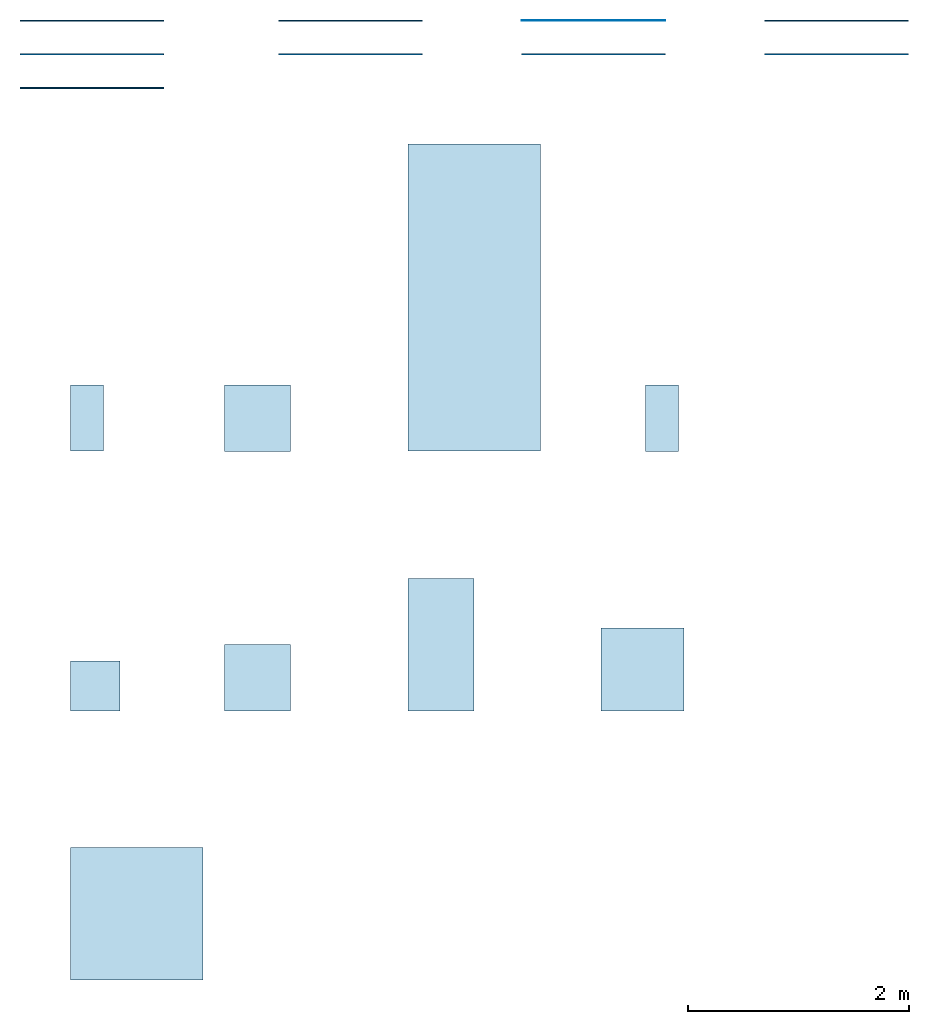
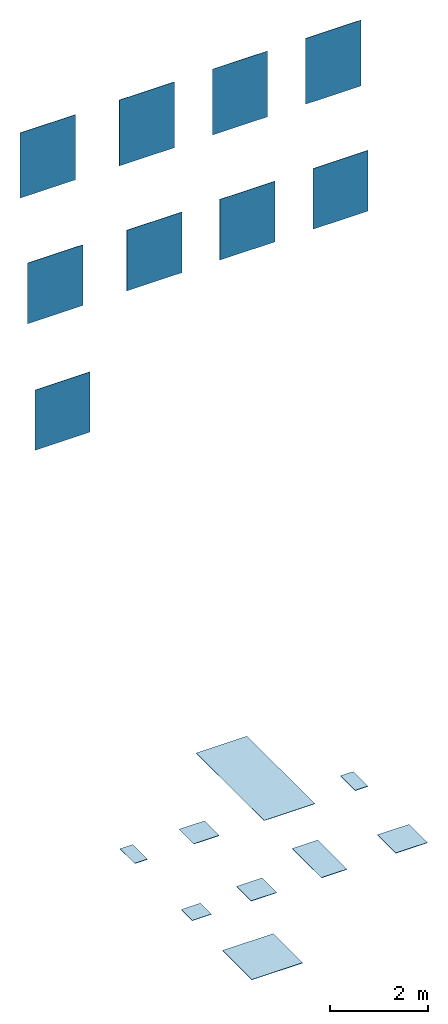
# One storey: 9 slabs, 9 walls.
"""IFC2X3 building model written with IfcOpenShell, lengths in millimetres."""

from ifc_helpers import new_model, entity, si_unit, converted_unit, derived_unit, direction, frame, frame_2d, origin, origin_2d_with_axis, place, context, subcontext, project, spatial, rectangle, extrude, material, layer, layer_set, layer_usage, type_object, element, save


model = new_model("IFC2X3")

# Units and contexts
model_context = context("Model", 3, precision=0.01, world=origin(), true_north=direction((6.12303176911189e-17, 1.0)))
body_context = subcontext(model_context, "Body", "Model", "MODEL_VIEW")
ifc_project = project(units=[si_unit("LENGTHUNIT", "METRE", prefix="MILLI"), si_unit("AREAUNIT", "SQUARE_METRE"), si_unit("VOLUMEUNIT", "CUBIC_METRE"), converted_unit("PLANEANGLEUNIT", "DEGREE", entity("IfcRatioMeasure", 0.0174532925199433), si_unit("PLANEANGLEUNIT", "RADIAN"), dimensions=[0, 0, 0, 0, 0, 0, 0]), si_unit("MASSUNIT", "GRAM", prefix="KILO"), derived_unit("MASSDENSITYUNIT", [(si_unit("MASSUNIT", "GRAM", prefix="KILO"), 1), (si_unit("LENGTHUNIT", "METRE"), -3)]), derived_unit("MOMENTOFINERTIAUNIT", [(si_unit("LENGTHUNIT", "METRE"), 4)]), si_unit("TIMEUNIT", "SECOND"), si_unit("FREQUENCYUNIT", "HERTZ"), si_unit("THERMODYNAMICTEMPERATUREUNIT", "DEGREE_CELSIUS"), derived_unit("THERMALTRANSMITTANCEUNIT", [(si_unit("MASSUNIT", "GRAM", prefix="KILO"), 1), (si_unit("THERMODYNAMICTEMPERATUREUNIT", "KELVIN"), -1), (si_unit("TIMEUNIT", "SECOND"), -3)]), derived_unit("VOLUMETRICFLOWRATEUNIT", [(si_unit("LENGTHUNIT", "METRE"), 3), (si_unit("TIMEUNIT", "SECOND"), -1)]), si_unit("ELECTRICCURRENTUNIT", "AMPERE"), si_unit("ELECTRICVOLTAGEUNIT", "VOLT"), si_unit("POWERUNIT", "WATT"), si_unit("FORCEUNIT", "NEWTON", prefix="KILO"), si_unit("ILLUMINANCEUNIT", "LUX"), si_unit("LUMINOUSFLUXUNIT", "LUMEN"), si_unit("LUMINOUSINTENSITYUNIT", "CANDELA"), derived_unit("USERDEFINED", [(si_unit("MASSUNIT", "GRAM", prefix="KILO"), -1), (si_unit("LENGTHUNIT", "METRE"), -2), (si_unit("TIMEUNIT", "SECOND"), 3), (si_unit("LUMINOUSFLUXUNIT", "LUMEN"), 1)]), derived_unit("LINEARVELOCITYUNIT", [(si_unit("LENGTHUNIT", "METRE"), 1), (si_unit("TIMEUNIT", "SECOND"), -1)]), si_unit("PRESSUREUNIT", "PASCAL"), derived_unit("USERDEFINED", [(si_unit("LENGTHUNIT", "METRE"), -2), (si_unit("MASSUNIT", "GRAM", prefix="KILO"), 1), (si_unit("TIMEUNIT", "SECOND"), -2)]), derived_unit("LINEARFORCEUNIT", [(si_unit("MASSUNIT", "GRAM", prefix="KILO"), 1), (si_unit("LENGTHUNIT", "METRE"), 1), (si_unit("TIMEUNIT", "SECOND"), -2), (si_unit("LENGTHUNIT", "METRE"), -1)]), derived_unit("PLANARFORCEUNIT", [(si_unit("MASSUNIT", "GRAM", prefix="KILO"), 1), (si_unit("LENGTHUNIT", "METRE"), 1), (si_unit("TIMEUNIT", "SECOND"), -2), (si_unit("LENGTHUNIT", "METRE"), -2)])], contexts=[model_context])

# Site, building, storey
site_placement = place(None, origin())
site = spatial("IfcSite", under=ifc_project, at=site_placement, Name="Default", CompositionType="ELEMENT")
building_placement = place(site_placement, origin())
building = spatial("IfcBuilding", under=site, at=building_placement, CompositionType="ELEMENT")
storey_placement = place(building_placement, origin())
storey = spatial("IfcBuildingStorey", under=building, at=storey_placement, Name="Level 0", CompositionType="ELEMENT", Elevation=0.0)

# Slabs
ifc_material_1 = material(Name="Creos-Bride-30x60 NC99")
ifc_layer_1 = layer(ifc_material_1, 9.0)
ifc_material_2 = material(Name="<Unnamed>")
ifc_layer_2 = layer(ifc_material_2, 1.0)
ifc_layer_set_1 = layer_set([ifc_layer_1, ifc_layer_2], Name="Floor:Floor_Tiles_Refin-Creos-Bride-30x60 NC99")
ifc_layer_usage_1 = layer_usage(ifc_layer_set_1, "AXIS3", "POSITIVE", 0.0)
slab_type_1 = type_object("IfcSlabType", Name="Floor:Floor_Tiles_Refin-Creos-Bride-30x60 NC99", PredefinedType="FLOOR", material=ifc_layer_set_1)
slab_1_placement = place(storey_placement, origin())
element("IfcSlab", 1, at=slab_1_placement, inside=storey, type_object=slab_type_1, material=ifc_layer_usage_1, Name="Floor:Floor_Tiles_Refin-Creos-Bride-30x60 NC99", ObjectType="Floor:Floor_Tiles_Refin-Creos-Bride-30x60 NC99", PredefinedType="FLOOR", context=body_context, shape_type="SweptSolid", body=[
    extrude(rectangle(XDim=600.0, YDim=300.0, at=frame_2d((0.0, 5.40012479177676e-13), x_axis=(1.0, 0.0))), frame((6524.37520617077, 4539.4623742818, 0.0), z_axis=(0.0, 0.0, -1.0), x_axis=(0.0, 1.0, 0.0)), (0.0, 0.0, 1.0), 10.0),
])
ifc_material_3 = material(Name="Creos-Bride-120x278 MK86")
ifc_layer_3 = layer(ifc_material_3, 6.0)
ifc_layer_4 = layer(ifc_material_2, 1.0)
ifc_layer_set_2 = layer_set([ifc_layer_3, ifc_layer_4], Name="Floor:Floor_Tiles_Refin-Creos-Bride-120x278 MK86")
ifc_layer_usage_2 = layer_usage(ifc_layer_set_2, "AXIS3", "POSITIVE", 0.0)
slab_type_2 = type_object("IfcSlabType", Name="Floor:Floor_Tiles_Refin-Creos-Bride-120x278 MK86", PredefinedType="FLOOR", material=ifc_layer_set_2)
slab_2_placement = place(storey_placement, origin())
element("IfcSlab", 2, at=slab_2_placement, inside=storey, type_object=slab_type_2, material=ifc_layer_usage_2, Name="Floor:Floor_Tiles_Refin-Creos-Bride-120x278 MK86", ObjectType="Floor:Floor_Tiles_Refin-Creos-Bride-120x278 MK86", PredefinedType="FLOOR", context=body_context, shape_type="SweptSolid", body=[
    extrude(rectangle(XDim=2780.0, YDim=1200.0, at=frame_2d((3.41060513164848e-13, 0.0), x_axis=(1.0, 0.0))), frame((10027.1861418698, 5629.46237428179, 0.0), z_axis=(0.0, 0.0, -1.0), x_axis=(0.0, 1.0, 0.0)), (0.0, 0.0, 1.0), 7.0),
])
ifc_material_4 = material(Name="Creos-Bride-60x60 NA50")
ifc_layer_5 = layer(ifc_material_4, 9.0)
ifc_layer_6 = layer(ifc_material_2, 1.0)
ifc_layer_set_3 = layer_set([ifc_layer_5, ifc_layer_6], Name="Floor:Floor_Tiles_Refin-Creos-Bride-60x60 NA60")
ifc_layer_usage_3 = layer_usage(ifc_layer_set_3, "AXIS3", "POSITIVE", 0.0)
slab_type_3 = type_object("IfcSlabType", Name="Floor:Floor_Tiles_Refin-Creos-Bride-60x60 NA60", PredefinedType="FLOOR", material=ifc_layer_set_3)
slab_3_placement = place(storey_placement, origin())
element("IfcSlab", 3, at=slab_3_placement, inside=storey, type_object=slab_type_3, material=ifc_layer_usage_3, Name="Floor:Floor_Tiles_Refin-Creos-Bride-60x60 NA60", ObjectType="Floor:Floor_Tiles_Refin-Creos-Bride-60x60 NA60", PredefinedType="FLOOR", context=body_context, shape_type="SweptSolid", body=[
    extrude(rectangle(XDim=600.0, YDim=600.0, at=frame_2d((0.0, 1.08002495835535e-12), x_axis=(1.0, 0.0))), frame((8067.39240545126, 4538.41920639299, 0.0), z_axis=(0.0, 0.0, -1.0), x_axis=(0.0, 1.0, 0.0)), (0.0, 0.0, 1.0), 10.0),
])
ifc_material_5 = material(Name="Creos-Bride-Soft-30x60 ND00")
ifc_layer_7 = layer(ifc_material_5, 9.0)
ifc_layer_8 = layer(ifc_material_2, 1.0)
ifc_layer_set_4 = layer_set([ifc_layer_7, ifc_layer_8], Name="Floor:Floor_Tiles_Refin-Creos-Bride-Soft-30x60 ND00")
ifc_layer_usage_4 = layer_usage(ifc_layer_set_4, "AXIS3", "POSITIVE", 0.0)
slab_type_4 = type_object("IfcSlabType", Name="Floor:Floor_Tiles_Refin-Creos-Bride-Soft-30x60 ND00", PredefinedType="FLOOR", material=ifc_layer_set_4)
slab_4_placement = place(storey_placement, origin())
element("IfcSlab", 4, at=slab_4_placement, inside=storey, type_object=slab_type_4, material=ifc_layer_usage_4, Name="Floor:Floor_Tiles_Refin-Creos-Bride-Soft-30x60 ND00", ObjectType="Floor:Floor_Tiles_Refin-Creos-Bride-Soft-30x60 ND00", PredefinedType="FLOOR", context=body_context, shape_type="SweptSolid", body=[
    extrude(rectangle(XDim=600.0, YDim=300.000000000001, at=origin_2d_with_axis()), frame((11727.1861418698, 4538.41920639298, 0.0), z_axis=(0.0, 0.0, -1.0), x_axis=(0.0, 1.0, 0.0)), (0.0, 0.0, 1.0), 10.0),
])
ifc_material_6 = material(Name="Creos-Bride-Soft-60x60 NA51")
ifc_layer_9 = layer(ifc_material_6, 9.0)
ifc_layer_10 = layer(ifc_material_2, 1.0)
ifc_layer_set_5 = layer_set([ifc_layer_9, ifc_layer_10], Name="Floor:Floor_Tiles_Refin-Creos-Bride-Soft-60x60 NA51")
ifc_layer_usage_5 = layer_usage(ifc_layer_set_5, "AXIS3", "POSITIVE", 0.0)
slab_type_5 = type_object("IfcSlabType", Name="Floor:Floor_Tiles_Refin-Creos-Bride-Soft-60x60 NA51", PredefinedType="FLOOR", material=ifc_layer_set_5)
slab_5_placement = place(storey_placement, origin())
element("IfcSlab", 5, at=slab_5_placement, inside=storey, type_object=slab_type_5, material=ifc_layer_usage_5, Name="Floor:Floor_Tiles_Refin-Creos-Bride-Soft-60x60 NA51", ObjectType="Floor:Floor_Tiles_Refin-Creos-Bride-Soft-60x60 NA51", PredefinedType="FLOOR", context=body_context, shape_type="SweptSolid", body=[
    extrude(rectangle(XDim=600.0, YDim=600.0, at=origin_2d_with_axis()), frame((8067.39240545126, 2189.4623742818, 0.0), z_axis=(0.0, 0.0, -1.0), x_axis=(0.0, 1.0, 0.0)), (0.0, 0.0, 1.0), 10.0),
])
ifc_material_7 = material(Name="Creos-Bride-Soft-75x75 NU51")
ifc_layer_11 = layer(ifc_material_7, 9.0)
ifc_layer_12 = layer(ifc_material_2, 1.0)
ifc_layer_set_6 = layer_set([ifc_layer_11, ifc_layer_12], Name="Floor:Floor_Tiles_Refin-Creos-Bride-Soft-75x75 NU51")
ifc_layer_usage_6 = layer_usage(ifc_layer_set_6, "AXIS3", "POSITIVE", 0.0)
slab_type_6 = type_object("IfcSlabType", Name="Floor:Floor_Tiles_Refin-Creos-Bride-Soft-75x75 NU51", PredefinedType="FLOOR", material=ifc_layer_set_6)
slab_6_placement = place(storey_placement, origin())
element("IfcSlab", 6, at=slab_6_placement, inside=storey, type_object=slab_type_6, material=ifc_layer_usage_6, Name="Floor:Floor_Tiles_Refin-Creos-Bride-Soft-75x75 NU51", ObjectType="Floor:Floor_Tiles_Refin-Creos-Bride-Soft-75x75 NU51", PredefinedType="FLOOR", context=body_context, shape_type="SweptSolid", body=[
    extrude(rectangle(XDim=750.0, YDim=750.000000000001, at=frame_2d((2.55795384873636e-13, 1.08002495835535e-12), x_axis=(1.0, 0.0))), frame((11552.1861418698, 2264.46237428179, 0.0), z_axis=(0.0, 0.0, -1.0), x_axis=(0.0, 1.0, 0.0)), (0.0, 0.0, 1.0), 10.0),
])
ifc_material_8 = material(Name="Creos-Bride-Soft-45x45 ND67")
ifc_layer_13 = layer(ifc_material_8, 9.5)
ifc_layer_14 = layer(ifc_material_2, 1.0)
ifc_layer_set_7 = layer_set([ifc_layer_13, ifc_layer_14], Name="Floor:Floor_Tiles_Refin-Creos-Bride-Soft-45x45 ND67")
ifc_layer_usage_7 = layer_usage(ifc_layer_set_7, "AXIS3", "POSITIVE", 0.0)
slab_type_7 = type_object("IfcSlabType", Name="Floor:Floor_Tiles_Refin-Creos-Bride-Soft-45x45 ND67", PredefinedType="FLOOR", material=ifc_layer_set_7)
slab_7_placement = place(storey_placement, origin())
element("IfcSlab", 7, at=slab_7_placement, inside=storey, type_object=slab_type_7, material=ifc_layer_usage_7, Name="Floor:Floor_Tiles_Refin-Creos-Bride-Soft-45x45 ND67", ObjectType="Floor:Floor_Tiles_Refin-Creos-Bride-Soft-45x45 ND67", PredefinedType="FLOOR", context=body_context, shape_type="SweptSolid", body=[
    extrude(rectangle(XDim=450.0, YDim=449.999999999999, at=frame_2d((2.70006239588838e-13, -1.08002495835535e-12), x_axis=(1.0, 0.0))), frame((6599.37520617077, 2114.46237428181, 0.0), z_axis=(0.0, 0.0, -1.0), x_axis=(0.0, 1.0, 0.0)), (0.0, 0.0, 1.0), 10.5),
])
ifc_material_9 = material(Name="Creos-Bride-Soft-60x120 NA62")
ifc_layer_15 = layer(ifc_material_9, 9.0)
ifc_layer_16 = layer(ifc_material_2, 1.0)
ifc_layer_set_8 = layer_set([ifc_layer_15, ifc_layer_16], Name="Floor:Floor_Tiles_Refin-Creos-Bride-Soft-60x120 NA62")
ifc_layer_usage_8 = layer_usage(ifc_layer_set_8, "AXIS3", "POSITIVE", 0.0)
slab_type_8 = type_object("IfcSlabType", Name="Floor:Floor_Tiles_Refin-Creos-Bride-Soft-60x120 NA62", PredefinedType="FLOOR", material=ifc_layer_set_8)
slab_8_placement = place(storey_placement, origin())
element("IfcSlab", 8, at=slab_8_placement, inside=storey, type_object=slab_type_8, material=ifc_layer_usage_8, Name="Floor:Floor_Tiles_Refin-Creos-Bride-Soft-60x120 NA62", ObjectType="Floor:Floor_Tiles_Refin-Creos-Bride-Soft-60x120 NA62", PredefinedType="FLOOR", context=body_context, shape_type="SweptSolid", body=[
    extrude(rectangle(XDim=1200.0, YDim=600.0, at=frame_2d((0.0, 1.08002495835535e-12), x_axis=(1.0, 0.0))), frame((9727.18614186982, 2489.4623742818, 0.0), z_axis=(0.0, 0.0, -1.0), x_axis=(0.0, 1.0, 0.0)), (0.0, 0.0, 1.0), 10.0),
])
ifc_material_10 = material(Name="Creos-Bride-Soft-120x120 MK20")
ifc_layer_17 = layer(ifc_material_10, 9.0)
ifc_layer_18 = layer(ifc_material_2, 1.0)
ifc_layer_set_9 = layer_set([ifc_layer_17, ifc_layer_18], Name="Floor:Floor_Tiles_Refin-Creos-Bride-Soft-120x120 MK20")
ifc_layer_usage_9 = layer_usage(ifc_layer_set_9, "AXIS3", "POSITIVE", 0.0)
slab_type_9 = type_object("IfcSlabType", Name="Floor:Floor_Tiles_Refin-Creos-Bride-Soft-120x120 MK20", PredefinedType="FLOOR", material=ifc_layer_set_9)
slab_9_placement = place(storey_placement, origin())
element("IfcSlab", 9, at=slab_9_placement, inside=storey, type_object=slab_type_9, material=ifc_layer_usage_9, Name="Floor:Floor_Tiles_Refin-Creos-Bride-Soft-120x120 MK20", ObjectType="Floor:Floor_Tiles_Refin-Creos-Bride-Soft-120x120 MK20", PredefinedType="FLOOR", context=body_context, shape_type="SweptSolid", body=[
    extrude(rectangle(XDim=1200.0, YDim=1200.0, at=origin_2d_with_axis()), frame((6974.37520617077, 53.4367234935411, 0.0), z_axis=(0.0, 0.0, -1.0), x_axis=(0.0, 1.0, 0.0)), (0.0, 0.0, 1.0), 10.0),
])

# Walls
ifc_layer_19 = layer(ifc_material_2, 1.0)
ifc_layer_20 = layer(ifc_material_4, 9.0)
ifc_layer_set_10 = layer_set([ifc_layer_19, ifc_layer_20], Name="Basic Wall:Wall_Tiles_Refin-Creos-Bride-60x60 NA60")
ifc_layer_usage_10 = layer_usage(ifc_layer_set_10, "AXIS2", "NEGATIVE", 5.0)
wall_type_1 = type_object("IfcWallType", Name="Basic Wall:Wall_Tiles_Refin-Creos-Bride-60x60 NA60", PredefinedType="STANDARD", material=ifc_layer_set_10)
wall_1_placement = place(storey_placement, frame((8257.37520617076, 8137.38386313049, 14387.6770443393)))
element("IfcWallStandardCase", 10, at=wall_1_placement, inside=storey, type_object=wall_type_1, material=ifc_layer_usage_10, Name="Basic Wall:Wall_Tiles_Refin-Creos-Bride-60x60 NA60", ObjectType="Basic Wall:Wall_Tiles_Refin-Creos-Bride-60x60 NA60", context=body_context, shape_type="SweptSolid", body=[
    extrude(rectangle(XDim=1300.0, YDim=9.99999999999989, at=frame_2d((650.0, 7.63833440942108e-14), x_axis=(-1.0, 0.0))), origin(), (0.0, 0.0, 1.0), 1641.74173522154),
])
ifc_layer_21 = layer(ifc_material_2, 1.0)
ifc_layer_22 = layer(ifc_material_3, 6.0)
ifc_layer_set_11 = layer_set([ifc_layer_21, ifc_layer_22], Name="Basic Wall:Wall_Tiles_Refin-Creos-Bride-120x278 MK86")
ifc_layer_usage_11 = layer_usage(ifc_layer_set_11, "AXIS2", "NEGATIVE", 3.5)
wall_type_2 = type_object("IfcWallType", Name="Basic Wall:Wall_Tiles_Refin-Creos-Bride-120x278 MK86", PredefinedType="STANDARD", material=ifc_layer_set_11)
wall_2_placement = place(storey_placement, frame((10457.3752061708, 8137.38386313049, 14387.6770443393)))
element("IfcWallStandardCase", 11, at=wall_2_placement, inside=storey, type_object=wall_type_2, material=ifc_layer_usage_11, Name="Basic Wall:Wall_Tiles_Refin-Creos-Bride-120x278 MK86", ObjectType="Basic Wall:Wall_Tiles_Refin-Creos-Bride-120x278 MK86", context=body_context, shape_type="SweptSolid", body=[
    extrude(rectangle(XDim=1300.0, YDim=7.00000000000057, at=frame_2d((650.0, 7.57172102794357e-14), x_axis=(-1.0, 0.0))), origin(), (0.0, 0.0, 1.0), 1641.74173522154),
])
ifc_layer_23 = layer(ifc_material_2, 1.0)
ifc_layer_24 = layer(ifc_material_1, 9.0)
ifc_layer_set_12 = layer_set([ifc_layer_23, ifc_layer_24], Name="Basic Wall:Wall_Tiles_Refin-Creos-Bride-30x60 NC99")
ifc_layer_usage_12 = layer_usage(ifc_layer_set_12, "AXIS2", "NEGATIVE", 5.0)
wall_type_3 = type_object("IfcWallType", Name="Basic Wall:Wall_Tiles_Refin-Creos-Bride-30x60 NC99", PredefinedType="STANDARD", material=ifc_layer_set_12)
wall_3_placement = place(storey_placement, frame((5917.37520617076, 8137.38386313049, 14403.726734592)))
element("IfcWallStandardCase", 12, at=wall_3_placement, inside=storey, type_object=wall_type_3, material=ifc_layer_usage_12, Name="Basic Wall:Wall_Tiles_Refin-Creos-Bride-30x60 NC99", ObjectType="Basic Wall:Wall_Tiles_Refin-Creos-Bride-30x60 NC99", context=body_context, shape_type="SweptSolid", body=[
    extrude(rectangle(XDim=1300.0, YDim=9.99999999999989, at=frame_2d((650.0, 7.63833440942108e-14), x_axis=(-1.0, 0.0))), origin(), (0.0, 0.0, 1.0), 1625.69204496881),
])
ifc_layer_25 = layer(ifc_material_2, 1.0)
ifc_layer_26 = layer(ifc_material_8, 9.5)
ifc_layer_set_13 = layer_set([ifc_layer_25, ifc_layer_26], Name="Basic Wall:Wall_Tiles_Refin-Creos-Bride-Soft-45x45 ND67")
ifc_layer_usage_13 = layer_usage(ifc_layer_set_13, "AXIS2", "NEGATIVE", 5.25)
wall_type_4 = type_object("IfcWallType", Name="Basic Wall:Wall_Tiles_Refin-Creos-Bride-Soft-45x45 ND67", PredefinedType="STANDARD", material=ifc_layer_set_13)
wall_4_placement = place(storey_placement, frame((5917.37520617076, 7832.38386313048, 11452.5436262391)))
element("IfcWallStandardCase", 13, at=wall_4_placement, inside=storey, type_object=wall_type_4, material=ifc_layer_usage_13, Name="Basic Wall:Wall_Tiles_Refin-Creos-Bride-Soft-45x45 ND67", ObjectType="Basic Wall:Wall_Tiles_Refin-Creos-Bride-Soft-45x45 ND67", context=body_context, shape_type="SweptSolid", body=[
    extrude(rectangle(XDim=1300.0, YDim=10.4999999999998, at=frame_2d((650.0, 0.0), x_axis=(-1.0, 0.0))), origin(), (0.0, 0.0, 1.0), 1513.19855655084),
])
ifc_layer_27 = layer(ifc_material_2, 1.0)
ifc_layer_28 = layer(ifc_material_6, 9.0)
ifc_layer_set_14 = layer_set([ifc_layer_27, ifc_layer_28], Name="Basic Wall:Wall_Tiles_Refin-Creos-Bride-Soft-60x60 NA51")
ifc_layer_usage_14 = layer_usage(ifc_layer_set_14, "AXIS2", "NEGATIVE", 5.0)
wall_type_5 = type_object("IfcWallType", Name="Basic Wall:Wall_Tiles_Refin-Creos-Bride-Soft-60x60 NA51", PredefinedType="STANDARD", material=ifc_layer_set_14)
wall_5_placement = place(storey_placement, frame((8257.37520617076, 7832.38386313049, 11452.5436262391)))
element("IfcWallStandardCase", 14, at=wall_5_placement, inside=storey, type_object=wall_type_5, material=ifc_layer_usage_14, Name="Basic Wall:Wall_Tiles_Refin-Creos-Bride-Soft-60x60 NA51", ObjectType="Basic Wall:Wall_Tiles_Refin-Creos-Bride-Soft-60x60 NA51", context=body_context, shape_type="SweptSolid", body=[
    extrude(rectangle(XDim=1300.0, YDim=9.99999999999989, at=frame_2d((650.0, 0.0), x_axis=(-1.0, 0.0))), origin(), (0.0, 0.0, 1.0), 1513.19855655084),
])
ifc_layer_29 = layer(ifc_material_2, 1.0)
ifc_layer_30 = layer(ifc_material_9, 9.0)
ifc_layer_set_15 = layer_set([ifc_layer_29, ifc_layer_30], Name="Basic Wall:Wall_Tiles_Refin-Creos-Bride-Soft-60x120 NA62")
ifc_layer_usage_15 = layer_usage(ifc_layer_set_15, "AXIS2", "NEGATIVE", 5.0)
wall_type_6 = type_object("IfcWallType", Name="Basic Wall:Wall_Tiles_Refin-Creos-Bride-Soft-60x120 NA62", PredefinedType="STANDARD", material=ifc_layer_set_15)
wall_6_placement = place(storey_placement, frame((10457.3752061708, 7832.38386313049, 11452.5436262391)))
element("IfcWallStandardCase", 15, at=wall_6_placement, inside=storey, type_object=wall_type_6, material=ifc_layer_usage_15, Name="Basic Wall:Wall_Tiles_Refin-Creos-Bride-Soft-60x120 NA62", ObjectType="Basic Wall:Wall_Tiles_Refin-Creos-Bride-Soft-60x120 NA62", context=body_context, shape_type="SweptSolid", body=[
    extrude(rectangle(XDim=1300.0, YDim=9.99999999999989, at=frame_2d((650.000000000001, 0.0), x_axis=(-1.0, 0.0))), origin(), (0.0, 0.0, 1.0), 1513.19855655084),
])
ifc_layer_31 = layer(ifc_material_2, 1.0)
ifc_layer_32 = layer(ifc_material_10, 9.0)
ifc_layer_set_16 = layer_set([ifc_layer_31, ifc_layer_32], Name="Basic Wall:Wall_Tiles_Refin-Creos-Bride-Soft-120x120 MK20")
ifc_layer_usage_16 = layer_usage(ifc_layer_set_16, "AXIS2", "NEGATIVE", 5.0)
wall_type_7 = type_object("IfcWallType", Name="Basic Wall:Wall_Tiles_Refin-Creos-Bride-Soft-120x120 MK20", PredefinedType="STANDARD", material=ifc_layer_set_16)
wall_7_placement = place(storey_placement, frame((5917.37520617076, 7527.38386313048, 8479.10272143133)))
element("IfcWallStandardCase", 16, at=wall_7_placement, inside=storey, type_object=wall_type_7, material=ifc_layer_usage_16, Name="Basic Wall:Wall_Tiles_Refin-Creos-Bride-Soft-120x120 MK20", ObjectType="Basic Wall:Wall_Tiles_Refin-Creos-Bride-Soft-120x120 MK20", context=body_context, shape_type="SweptSolid", body=[
    extrude(rectangle(XDim=1300.0, YDim=9.99999999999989, at=frame_2d((650.0, 0.0), x_axis=(-1.0, 0.0))), origin(), (0.0, 0.0, 1.0), 1502.57401590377),
])
ifc_layer_33 = layer(ifc_material_2, 1.0)
ifc_layer_34 = layer(ifc_material_5, 9.0)
ifc_layer_set_17 = layer_set([ifc_layer_33, ifc_layer_34], Name="Basic Wall:Wall_Tiles_Refin-Creos-Bride-Soft-30x60 ND00")
ifc_layer_usage_17 = layer_usage(ifc_layer_set_17, "AXIS2", "NEGATIVE", 5.0)
wall_type_8 = type_object("IfcWallType", Name="Basic Wall:Wall_Tiles_Refin-Creos-Bride-Soft-30x60 ND00", PredefinedType="STANDARD", material=ifc_layer_set_17)
wall_8_placement = place(storey_placement, frame((12657.3752061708, 8137.3838631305, 14387.6770443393)))
element("IfcWallStandardCase", 17, at=wall_8_placement, inside=storey, type_object=wall_type_8, material=ifc_layer_usage_17, Name="Basic Wall:Wall_Tiles_Refin-Creos-Bride-Soft-30x60 ND00", ObjectType="Basic Wall:Wall_Tiles_Refin-Creos-Bride-Soft-30x60 ND00", context=body_context, shape_type="SweptSolid", body=[
    extrude(rectangle(XDim=1300.0, YDim=9.99999999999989, at=frame_2d((650.0, 7.63833440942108e-14), x_axis=(-1.0, 0.0))), origin(), (0.0, 0.0, 1.0), 1641.74173522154),
])
ifc_layer_35 = layer(ifc_material_2, 1.0)
ifc_layer_36 = layer(ifc_material_7, 9.0)
ifc_layer_set_18 = layer_set([ifc_layer_35, ifc_layer_36], Name="Basic Wall:Wall_Tiles_Refin-Creos-Bride-Soft-75x75 NU51")
ifc_layer_usage_18 = layer_usage(ifc_layer_set_18, "AXIS2", "NEGATIVE", 5.0)
wall_type_9 = type_object("IfcWallType", Name="Basic Wall:Wall_Tiles_Refin-Creos-Bride-Soft-75x75 NU51", PredefinedType="STANDARD", material=ifc_layer_set_18)
wall_9_placement = place(storey_placement, frame((12657.3752061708, 7832.3838631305, 11452.5436262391)))
element("IfcWallStandardCase", 18, at=wall_9_placement, inside=storey, type_object=wall_type_9, material=ifc_layer_usage_18, Name="Basic Wall:Wall_Tiles_Refin-Creos-Bride-Soft-75x75 NU51", ObjectType="Basic Wall:Wall_Tiles_Refin-Creos-Bride-Soft-75x75 NU51", context=body_context, shape_type="SweptSolid", body=[
    extrude(rectangle(XDim=1300.0, YDim=9.99999999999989, at=frame_2d((650.0, 0.0), x_axis=(-1.0, 0.0))), origin(), (0.0, 0.0, 1.0), 1513.19855655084),
])

save(model, "model.ifc")
